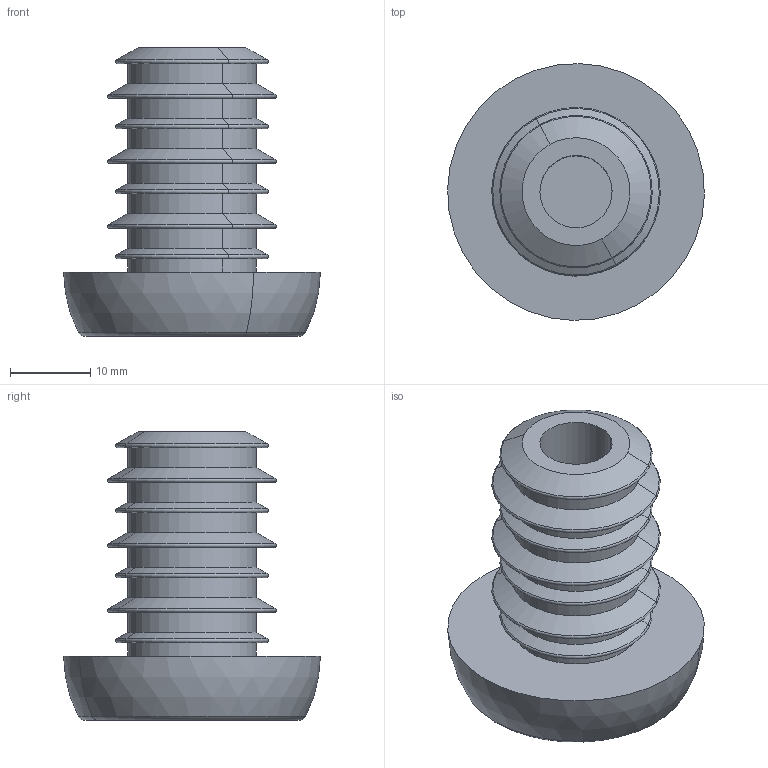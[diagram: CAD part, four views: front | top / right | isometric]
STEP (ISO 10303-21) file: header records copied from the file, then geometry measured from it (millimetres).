
FILE_DESCRIPTION(('CATIA V5 STEP Exchange'),'2;1');
FILE_NAME('G:\UTB\Kombinované\Bakalářská práce\Catia\KONCOVKA.stp','2025-04-26T23:21:56+00:00',('none'),('none'),'CATIA Version 5 Release 19 GA (IN-10)','CATIA V5 STEP AP203','none');
FILE_SCHEMA(('CONFIG_CONTROL_DESIGN'));
Length unit declared in the file: millimetre
Products named in the file (1): KONCOVKA
Bounding box: 31.99 x 31.99 x 36 mm (x, y, z)
Volume: 9602.4 mm3; surface area: 5732.2 mm2
Topology: 1 solids, 1 shells, 63 faces, 124 edges, 72 vertices
Faces by surface type: torus 18, cone 16, cylinder 16, plane 11, sphere 2
Entity records: 1424 total; most frequent: ORIENTED_EDGE 248, CARTESIAN_POINT 228, DIRECTION 186, AXIS2_PLACEMENT_3D 124, EDGE_CURVE 124, CIRCLE 92, EDGE_LOOP 72, VERTEX_POINT 72
